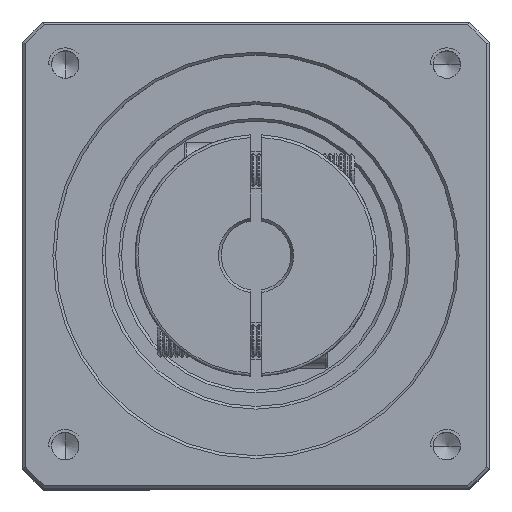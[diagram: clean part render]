
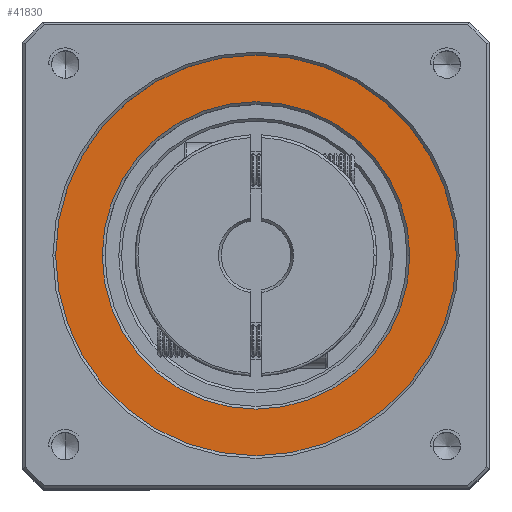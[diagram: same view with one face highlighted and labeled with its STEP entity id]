
A CAD part, top view. The second image highlights one B-rep face of the part: STEP entity #41830.
In plain terms, the highlighted planar face has unit normal (0, 0, 1).
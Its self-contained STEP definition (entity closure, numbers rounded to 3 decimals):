
#6367 = EDGE_LOOP ( 'NONE', ( #83248, #15346 ) ) ;
#7990 = AXIS2_PLACEMENT_3D ( 'NONE', #24599, #114567, #43399 ) ;
#8198 = CIRCLE ( 'NONE', #7990, 28. ) ;
#8995 = DIRECTION ( 'NONE',  ( 1., 0., 0. ) ) ;
#15346 = ORIENTED_EDGE ( 'NONE', *, *, #84161, .T. ) ;
#18410 = DIRECTION ( 'NONE',  ( 1., 0., 0. ) ) ;
#24599 = CARTESIAN_POINT ( 'NONE',  ( -34.658, 1.512, 180. ) ) ;
#25818 = FACE_BOUND ( 'NONE', #96168, .T. ) ;
#26498 = AXIS2_PLACEMENT_3D ( 'NONE', #79259, #109276, #18410 ) ;
#29019 = CARTESIAN_POINT ( 'NONE',  ( -34.658, 1.512, 180. ) ) ;
#29736 = AXIS2_PLACEMENT_3D ( 'NONE', #29019, #77265, #8995 ) ;
#30372 = AXIS2_PLACEMENT_3D ( 'NONE', #40992, #63094, #54001 ) ;
#33223 = AXIS2_PLACEMENT_3D ( 'NONE', #83027, #63487, #73399 ) ;
#40992 = CARTESIAN_POINT ( 'NONE',  ( -34.658, 1.512, 180. ) ) ;
#41830 = ADVANCED_FACE ( 'NONE', ( #119154, #25818 ), #58034, .T. ) ;
#43399 = DIRECTION ( 'NONE',  ( 1., 0., 0. ) ) ;
#47676 = CARTESIAN_POINT ( 'NONE',  ( 1.842, 1.512, 180. ) ) ;
#49171 = ORIENTED_EDGE ( 'NONE', *, *, #89635, .T. ) ;
#54001 = DIRECTION ( 'NONE',  ( 1., 0., 0. ) ) ;
#54213 = VERTEX_POINT ( 'NONE', #55237 ) ;
#55237 = CARTESIAN_POINT ( 'NONE',  ( -6.658, 1.512, 180. ) ) ;
#56589 = EDGE_CURVE ( 'NONE', #68936, #54213, #88351, .T. ) ;
#58034 = PLANE ( 'NONE',  #26498 ) ;
#63094 = DIRECTION ( 'NONE',  ( 0., 0., 1. ) ) ;
#63487 = DIRECTION ( 'NONE',  ( 0., 0., 1. ) ) ;
#68936 = VERTEX_POINT ( 'NONE', #91484 ) ;
#71597 = VERTEX_POINT ( 'NONE', #47676 ) ;
#73399 = DIRECTION ( 'NONE',  ( 1., 0., 0. ) ) ;
#77265 = DIRECTION ( 'NONE',  ( 0., 0., -1. ) ) ;
#78485 = CIRCLE ( 'NONE', #33223, 36.5 ) ;
#79259 = CARTESIAN_POINT ( 'NONE',  ( -34.658, 1.512, 180. ) ) ;
#83027 = CARTESIAN_POINT ( 'NONE',  ( -34.658, 1.512, 180. ) ) ;
#83248 = ORIENTED_EDGE ( 'NONE', *, *, #105665, .T. ) ;
#84161 = EDGE_CURVE ( 'NONE', #101607, #71597, #78485, .T. ) ;
#84828 = ORIENTED_EDGE ( 'NONE', *, *, #56589, .T. ) ;
#88351 = CIRCLE ( 'NONE', #29736, 28. ) ;
#89635 = EDGE_CURVE ( 'NONE', #54213, #68936, #8198, .T. ) ;
#90676 = CARTESIAN_POINT ( 'NONE',  ( -71.158, 1.512, 180. ) ) ;
#91484 = CARTESIAN_POINT ( 'NONE',  ( -62.658, 1.512, 180. ) ) ;
#96168 = EDGE_LOOP ( 'NONE', ( #49171, #84828 ) ) ;
#101607 = VERTEX_POINT ( 'NONE', #90676 ) ;
#105665 = EDGE_CURVE ( 'NONE', #71597, #101607, #114449, .T. ) ;
#109276 = DIRECTION ( 'NONE',  ( 0., 0., 1. ) ) ;
#114449 = CIRCLE ( 'NONE', #30372, 36.5 ) ;
#114567 = DIRECTION ( 'NONE',  ( 0., 0., -1. ) ) ;
#119154 = FACE_OUTER_BOUND ( 'NONE', #6367, .T. ) ;
